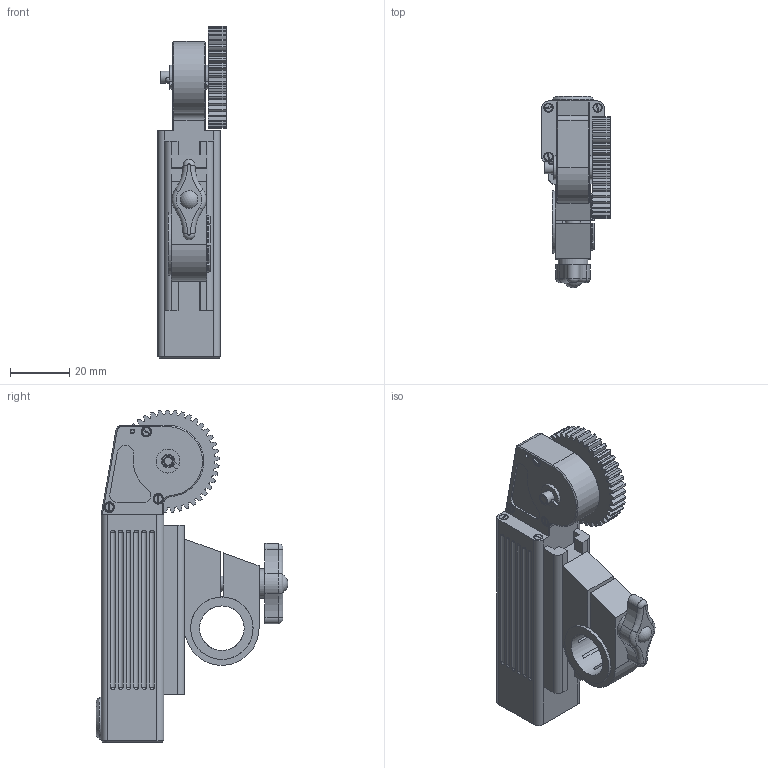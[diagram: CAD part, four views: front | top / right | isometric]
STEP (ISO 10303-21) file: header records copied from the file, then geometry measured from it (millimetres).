
FILE_DESCRIPTION (( 'STEP AP214' ), '1' );
FILE_NAME ('M21VE-L.STEP', '2017-04-07T15:39:08', ( '' ), ( '' ), 'SwSTEP 2.0', 'SolidWorks 2017', '' );
FILE_SCHEMA (( 'AUTOMOTIVE_DESIGN' ));
Length unit declared in the file: millimetre
Products named in the file (1): M21VE-L
Bounding box: 23 x 64.5 x 111.7 mm (x, y, z)
Volume: 60576 mm3; surface area: 21582.8 mm2
Topology: 1 solids, 1 shells, 1070 faces, 2884 edges, 1895 vertices
Faces by surface type: plane 463, cylinder 296, bspline 176, sphere 52, cone 49, torus 34
Full cylindrical faces by diameter (mm): 1.1 x7, 1.25 x3, 1.6 x2, 2 x1, 2.05 x1, 2.5 x1, 2.7 x1, 3.1 x11, 4 x1, 5.1 x1, 5.5 x1, 6 x3, 9 x1, 10 x2, 14 x1, 15 x1, 19 x1, 21 x1
Entity records: 49483 total; most frequent: CARTESIAN_POINT 12075, ORIENTED_EDGE 5554, DIRECTION 4887, EDGE_CURVE 2777, VERTEX_POINT 1858, AXIS2_PLACEMENT_3D 1703, LINE 1481, VECTOR 1481
